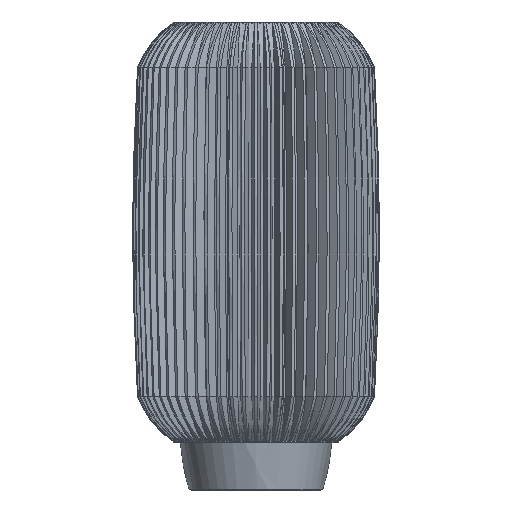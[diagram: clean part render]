
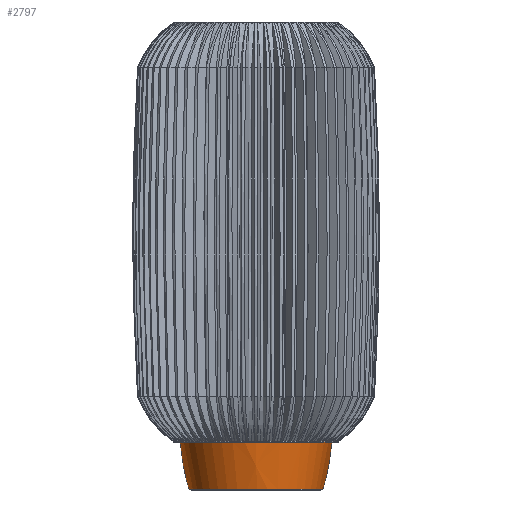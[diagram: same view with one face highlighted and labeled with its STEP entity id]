
A CAD part, front view. The second image highlights one B-rep face of the part: STEP entity #2797.
In plain terms, the highlighted free-form (B-spline) face has degree [2, 2] with [5, 3] control points.
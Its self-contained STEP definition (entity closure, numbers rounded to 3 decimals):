
#2797=ADVANCED_FACE('',(#4706),#29617,.T.);
#4706=FACE_OUTER_BOUND('',#6616,.T.);
#6616=EDGE_LOOP('',(#15205,#15206,#15207,#15208,#15209,#15210));
#15205=ORIENTED_EDGE('',*,*,#20833,.F.);
#15206=ORIENTED_EDGE('',*,*,#20838,.T.);
#15207=ORIENTED_EDGE('',*,*,#20835,.T.);
#15208=ORIENTED_EDGE('',*,*,#20837,.T.);
#15209=ORIENTED_EDGE('',*,*,#20834,.T.);
#15210=ORIENTED_EDGE('',*,*,#20844,.F.);
#20833=EDGE_CURVE('',#28993,#29000,#25666,.T.);
#20834=EDGE_CURVE('',#28994,#29001,#26227,.T.);
#20835=EDGE_CURVE('',#28996,#28995,#25667,.T.);
#20837=EDGE_CURVE('',#28995,#28994,#26228,.T.);
#20838=EDGE_CURVE('',#28993,#28996,#26229,.T.);
#20844=EDGE_CURVE('',#29000,#29001,#26234,.T.);
#25666=B_SPLINE_CURVE_WITH_KNOTS('',3,(#76221,#76222,#76223,#76224,#76225,
#76226,#76227,#76228,#76229,#76230,#76231,#76232,#76233),.UNSPECIFIED.,
 .F.,.F.,(4,3,3,3,4),(0.,58.71,117.419,
176.129,234.839),.UNSPECIFIED.);
#25667=B_SPLINE_CURVE_WITH_KNOTS('',3,(#76239,#76240,#76241,#76242,#76243,
#76244,#76245,#76246,#76247,#76248,#76249,#76250,#76251,#76252,#76253,#76254,
#76255,#76256,#76257,#76258,#76259),.UNSPECIFIED.,.F.,.F.,(4,2,3,2,3,2,
3,2,4),(0.,1.95,3.897,5.787,
7.678,9.446,11.216,12.898,14.579),
 .UNSPECIFIED.);
#26227=(
BOUNDED_CURVE()
B_SPLINE_CURVE(2,(#76234,#76235,#76236,#76237,#76238),.UNSPECIFIED.,.F.,
 .F.)
B_SPLINE_CURVE_WITH_KNOTS((3,2,3),(-461.711,-346.283,
-230.856),.UNSPECIFIED.)
CURVE()
GEOMETRIC_REPRESENTATION_ITEM()
RATIONAL_B_SPLINE_CURVE((1.,0.647,0.837,0.647,
1.))
REPRESENTATION_ITEM('')
);
#26228=(
BOUNDED_CURVE()
B_SPLINE_CURVE(2,(#76281,#76282,#76283),.UNSPECIFIED.,.F.,.F.)
B_SPLINE_CURVE_WITH_KNOTS((3,3),(50.97,62.054),
 .UNSPECIFIED.)
CURVE()
GEOMETRIC_REPRESENTATION_ITEM()
RATIONAL_B_SPLINE_CURVE((1.,1.,1.))
REPRESENTATION_ITEM('')
);
#26229=(
BOUNDED_CURVE()
B_SPLINE_CURVE(2,(#76284,#76285,#76286),.UNSPECIFIED.,.F.,.F.)
B_SPLINE_CURVE_WITH_KNOTS((3,3),(16.014,41.59),
 .UNSPECIFIED.)
CURVE()
GEOMETRIC_REPRESENTATION_ITEM()
RATIONAL_B_SPLINE_CURVE((1.,0.998,1.))
REPRESENTATION_ITEM('')
);
#26234=(
BOUNDED_CURVE()
B_SPLINE_CURVE(2,(#76302,#76303,#76304),.UNSPECIFIED.,.F.,.F.)
B_SPLINE_CURVE_WITH_KNOTS((3,3),(16.014,62.054),
 .UNSPECIFIED.)
CURVE()
GEOMETRIC_REPRESENTATION_ITEM()
RATIONAL_B_SPLINE_CURVE((1.,0.994,1.))
REPRESENTATION_ITEM('')
);
#28993=VERTEX_POINT('',#76209);
#28994=VERTEX_POINT('',#76210);
#28995=VERTEX_POINT('',#76211);
#28996=VERTEX_POINT('',#76212);
#29000=VERTEX_POINT('',#76216);
#29001=VERTEX_POINT('',#76217);
#29617=(
BOUNDED_SURFACE()
B_SPLINE_SURFACE(2,2,((#76174,#76175,#76176),(#76177,#76178,#76179),(#76180,
#76181,#76182),(#76183,#76184,#76185),(#76186,#76187,#76188)),
 .UNSPECIFIED.,.F.,.F.,.F.)
B_SPLINE_SURFACE_WITH_KNOTS((3,2,3),(3,3),(230.856,346.283,
461.711),(0.,62.054),.UNSPECIFIED.)
GEOMETRIC_REPRESENTATION_ITEM()
RATIONAL_B_SPLINE_SURFACE(((0.837,0.827,0.837),
(0.592,0.585,0.592),(0.837,
0.827,0.837),(0.592,0.585,
0.592),(0.837,0.827,0.837)))
REPRESENTATION_ITEM('')
SURFACE()
);
#76174=CARTESIAN_POINT('',(73.484,0.,61.123));
#76175=CARTESIAN_POINT('',(73.484,0.,29.859));
#76176=CARTESIAN_POINT('',(64.22,0.,0.));
#76177=CARTESIAN_POINT('',(73.484,-73.484,61.123));
#76178=CARTESIAN_POINT('',(73.484,-73.484,29.859));
#76179=CARTESIAN_POINT('',(64.22,-64.22,0.));
#76180=CARTESIAN_POINT('',(0.,-73.484,61.123));
#76181=CARTESIAN_POINT('',(0.,-73.484,29.859));
#76182=CARTESIAN_POINT('',(0.,-64.22,0.));
#76183=CARTESIAN_POINT('',(-73.484,-73.484,61.123));
#76184=CARTESIAN_POINT('',(-73.484,-73.484,29.859));
#76185=CARTESIAN_POINT('',(-64.22,-64.22,0.));
#76186=CARTESIAN_POINT('',(-73.484,0.,61.123));
#76187=CARTESIAN_POINT('',(-73.484,0.,29.859));
#76188=CARTESIAN_POINT('',(-64.22,0.,0.));
#76209=CARTESIAN_POINT('',(-72.864,0.,45.146));
#76210=CARTESIAN_POINT('',(-64.22,0.,0.));
#76211=CARTESIAN_POINT('',(-67.213,0.,10.648));
#76212=CARTESIAN_POINT('',(-69.302,0.,19.797));
#76216=CARTESIAN_POINT('',(72.864,0.,45.146));
#76217=CARTESIAN_POINT('',(64.22,0.,0.));
#76221=CARTESIAN_POINT('',(-72.864,0.,45.146));
#76222=CARTESIAN_POINT('',(-72.864,-19.325,45.146));
#76223=CARTESIAN_POINT('',(-65.187,-37.858,45.146));
#76224=CARTESIAN_POINT('',(-51.523,-51.523,45.146));
#76225=CARTESIAN_POINT('',(-37.858,-65.187,45.146));
#76226=CARTESIAN_POINT('',(-19.325,-72.864,45.146));
#76227=CARTESIAN_POINT('',(0.,-72.864,45.146));
#76228=CARTESIAN_POINT('',(19.325,-72.864,45.146));
#76229=CARTESIAN_POINT('',(37.858,-65.187,45.146));
#76230=CARTESIAN_POINT('',(51.523,-51.523,45.146));
#76231=CARTESIAN_POINT('',(65.187,-37.858,45.146));
#76232=CARTESIAN_POINT('',(72.864,-19.325,45.146));
#76233=CARTESIAN_POINT('',(72.864,0.,45.146));
#76234=CARTESIAN_POINT('',(-64.22,0.,0.));
#76235=CARTESIAN_POINT('',(-64.22,-64.22,0.));
#76236=CARTESIAN_POINT('',(0.,-64.22,0.));
#76237=CARTESIAN_POINT('',(64.22,-64.22,0.));
#76238=CARTESIAN_POINT('',(64.22,0.,0.));
#76239=CARTESIAN_POINT('',(-69.302,0.,19.797));
#76240=CARTESIAN_POINT('',(-69.302,-0.648,19.797));
#76241=CARTESIAN_POINT('',(-69.264,-1.286,19.656));
#76242=CARTESIAN_POINT('',(-69.121,-2.455,19.12));
#76243=CARTESIAN_POINT('',(-69.019,-2.971,18.732));
#76244=CARTESIAN_POINT('',(-68.897,-3.389,18.254));
#76245=CARTESIAN_POINT('',(-68.778,-3.796,17.79));
#76246=CARTESIAN_POINT('',(-68.643,-4.102,17.251));
#76247=CARTESIAN_POINT('',(-68.362,-4.486,16.089));
#76248=CARTESIAN_POINT('',(-68.218,-4.561,15.475));
#76249=CARTESIAN_POINT('',(-68.081,-4.514,14.865));
#76250=CARTESIAN_POINT('',(-67.952,-4.47,14.293));
#76251=CARTESIAN_POINT('',(-67.83,-4.319,13.732));
#76252=CARTESIAN_POINT('',(-67.611,-3.816,12.692));
#76253=CARTESIAN_POINT('',(-67.516,-3.467,12.222));
#76254=CARTESIAN_POINT('',(-67.439,-3.036,11.829));
#76255=CARTESIAN_POINT('',(-67.365,-2.627,11.455));
#76256=CARTESIAN_POINT('',(-67.309,-2.152,11.158));
#76257=CARTESIAN_POINT('',(-67.232,-1.113,10.753));
#76258=CARTESIAN_POINT('',(-67.213,-0.559,10.648));
#76259=CARTESIAN_POINT('',(-67.213,0.,10.648));
#76281=CARTESIAN_POINT('',(-67.213,0.,10.648));
#76282=CARTESIAN_POINT('',(-65.859,0.,5.284));
#76283=CARTESIAN_POINT('',(-64.22,0.,0.));
#76284=CARTESIAN_POINT('',(-72.864,0.,45.146));
#76285=CARTESIAN_POINT('',(-71.871,0.,32.361));
#76286=CARTESIAN_POINT('',(-69.302,0.,19.797));
#76302=CARTESIAN_POINT('',(72.864,0.,45.146));
#76303=CARTESIAN_POINT('',(71.073,0.,22.089));
#76304=CARTESIAN_POINT('',(64.22,0.,0.));
